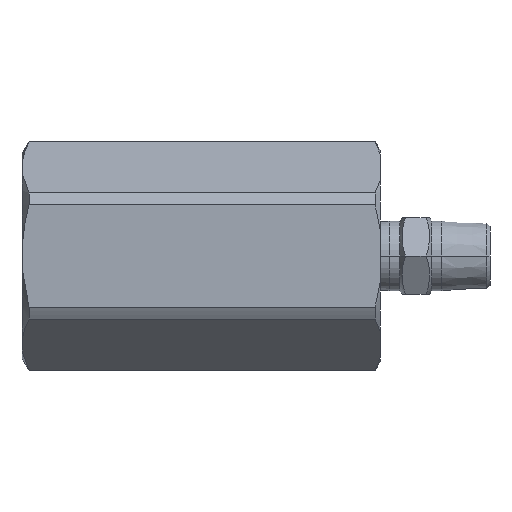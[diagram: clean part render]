
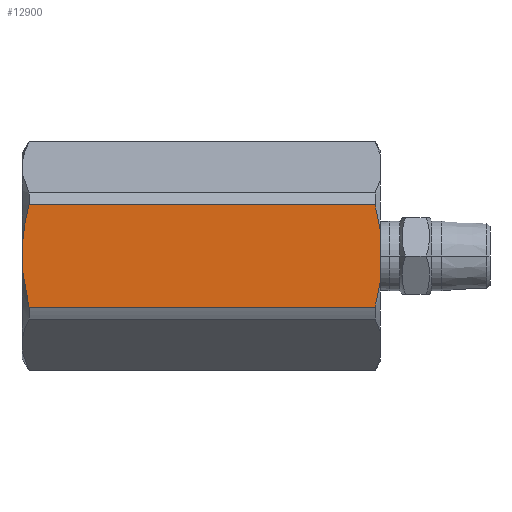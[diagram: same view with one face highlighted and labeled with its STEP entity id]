
A CAD part, front view. The second image highlights one B-rep face of the part: STEP entity #12900.
In plain terms, the highlighted planar face has unit normal (0, -1, 0).
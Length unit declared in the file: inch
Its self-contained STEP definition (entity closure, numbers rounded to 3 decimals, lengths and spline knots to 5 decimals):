
#2807=DIRECTION('',(-1.,0.,0.));
#2808=VECTOR('',#2807,3.38296);
#2809=CARTESIAN_POINT('',(3.45148,-1.,-0.4988));
#2810=LINE('',#2809,#2808);
#2811=CARTESIAN_POINT('',(0.06852,-1.,-0.4988));
#2812=CARTESIAN_POINT('',(0.06427,-1.,-0.48232));
#2813=CARTESIAN_POINT('',(0.05617,-1.,-0.44956));
#2814=CARTESIAN_POINT('',(0.04522,-1.,-0.40113));
#2815=CARTESIAN_POINT('',(0.03546,-1.,-0.35324));
#2816=CARTESIAN_POINT('',(0.02687,-1.,-0.30573));
#2817=CARTESIAN_POINT('',(0.01947,-1.,-0.2585));
#2818=CARTESIAN_POINT('',(0.01325,-1.,-0.21142));
#2819=CARTESIAN_POINT('',(0.00823,-1.,-0.1644));
#2820=CARTESIAN_POINT('',(0.00444,-1.,-0.11744));
#2821=CARTESIAN_POINT('',(0.0019,-1.,-0.07046));
#2822=CARTESIAN_POINT('',(0.00063,-1.,-0.02348));
#2823=CARTESIAN_POINT('',(0.00063,-1.,0.02348));
#2824=CARTESIAN_POINT('',(0.0019,-1.,0.07046));
#2825=CARTESIAN_POINT('',(0.00444,-1.,0.11744));
#2826=CARTESIAN_POINT('',(0.00823,-1.,0.1644));
#2827=CARTESIAN_POINT('',(0.01325,-1.,0.21142));
#2828=CARTESIAN_POINT('',(0.01947,-1.,0.25851));
#2829=CARTESIAN_POINT('',(0.02687,-1.,0.30573));
#2830=CARTESIAN_POINT('',(0.03546,-1.,0.35324));
#2831=CARTESIAN_POINT('',(0.04522,-1.,0.40113));
#2832=CARTESIAN_POINT('',(0.05617,-1.,0.44956));
#2833=CARTESIAN_POINT('',(0.06427,-1.,0.48232));
#2834=CARTESIAN_POINT('',(0.06852,-1.,0.4988));
#2836=DIRECTION('',(-1.,0.,0.));
#2837=VECTOR('',#2836,3.38296);
#2838=CARTESIAN_POINT('',(3.45148,-1.,0.4988));
#2839=LINE('',#2838,#2837);
#2840=CARTESIAN_POINT('',(3.5,-1.,0.26083));
#2841=CARTESIAN_POINT('',(3.49771,-1.,0.27654));
#2842=CARTESIAN_POINT('',(3.49274,-1.,0.308));
#2843=CARTESIAN_POINT('',(3.48415,-1.,0.35522));
#2844=CARTESIAN_POINT('',(3.47444,-1.,0.40267));
#2845=CARTESIAN_POINT('',(3.46362,-1.,0.45044));
#2846=CARTESIAN_POINT('',(3.45565,-1.,0.48263));
#2847=CARTESIAN_POINT('',(3.45148,-1.,0.4988));
#2849=CARTESIAN_POINT('',(3.45148,-1.,-0.4988));
#2850=CARTESIAN_POINT('',(3.45566,-1.,-0.48258));
#2851=CARTESIAN_POINT('',(3.46365,-1.,-0.45031));
#2852=CARTESIAN_POINT('',(3.47448,-1.,-0.40248));
#2853=CARTESIAN_POINT('',(3.48419,-1.,-0.35504));
#2854=CARTESIAN_POINT('',(3.49276,-1.,-0.30788));
#2855=CARTESIAN_POINT('',(3.49772,-1.,-0.2765));
#2856=CARTESIAN_POINT('',(3.5,-1.,-0.26083));
#3007=DIRECTION('',(0.,0.,1.));
#3008=VECTOR('',#3007,0.52166);
#3009=CARTESIAN_POINT('',(3.5,-1.,-0.26083));
#3010=LINE('',#3009,#3008);
#8681=CARTESIAN_POINT('',(3.5,-1.,-0.26083));
#8683=VERTEX_POINT('',#8681);
#8684=CARTESIAN_POINT('',(3.5,-1.,0.26083));
#8686=VERTEX_POINT('',#8684);
#8731=CARTESIAN_POINT('',(3.45148,-1.,-0.4988));
#8732=CARTESIAN_POINT('',(0.06852,-1.,-0.4988));
#8733=VERTEX_POINT('',#8731);
#8734=VERTEX_POINT('',#8732);
#8735=CARTESIAN_POINT('',(3.45148,-1.,0.4988));
#8736=CARTESIAN_POINT('',(0.06852,-1.,0.4988));
#8737=VERTEX_POINT('',#8735);
#8738=VERTEX_POINT('',#8736);
#12883=CARTESIAN_POINT('',(0.,-1.,-0.57735));
#12884=DIRECTION('',(0.,-1.,0.));
#12885=DIRECTION('',(0.,0.,1.));
#12886=AXIS2_PLACEMENT_3D('',#12883,#12884,#12885);
#12887=PLANE('',#12886);
#12888=ORIENTED_EDGE('',*,*,#12876,.T.);
#12889=ORIENTED_EDGE('',*,*,#12811,.T.);
#12891=ORIENTED_EDGE('',*,*,#12890,.F.);
#12893=ORIENTED_EDGE('',*,*,#12892,.F.);
#12895=ORIENTED_EDGE('',*,*,#12894,.F.);
#12897=ORIENTED_EDGE('',*,*,#12896,.F.);
#12898=EDGE_LOOP('',(#12888,#12889,#12891,#12893,#12895,#12897));
#12899=FACE_OUTER_BOUND('',#12898,.F.);
#12900=ADVANCED_FACE('',(#12899),#12887,.T.);
#2835=B_SPLINE_CURVE_WITH_KNOTS('',3,(#2811,#2812,#2813,#2814,#2815,#2816,#2817,
#2818,#2819,#2820,#2821,#2822,#2823,#2824,#2825,#2826,#2827,#2828,#2829,#2830,
#2831,#2832,#2833,#2834),.UNSPECIFIED.,.F.,.F.,(4,1,1,1,1,1,1,1,1,1,1,1,1,1,1,1,
1,1,1,1,1,4),(0.,0.04762,0.09524,0.14286,
0.19048,0.2381,0.28571,0.33333,
0.38095,0.42857,0.47619,0.52381,
0.57143,0.61905,0.66667,0.71429,
0.7619,0.80952,0.85714,0.90476,
0.95238,1.),.UNSPECIFIED.);
#2848=B_SPLINE_CURVE_WITH_KNOTS('',3,(#2840,#2841,#2842,#2843,#2844,#2845,#2846,
#2847),.UNSPECIFIED.,.F.,.F.,(4,1,1,1,1,4),(0.,0.2,0.4,0.6,0.8,1.),
.UNSPECIFIED.);
#2857=B_SPLINE_CURVE_WITH_KNOTS('',3,(#2849,#2850,#2851,#2852,#2853,#2854,#2855,
#2856),.UNSPECIFIED.,.F.,.F.,(4,1,1,1,1,4),(0.,0.2,0.4,0.6,0.8,1.),
.UNSPECIFIED.);
#12811=EDGE_CURVE('',#8734,#8738,#2835,.T.);
#12876=EDGE_CURVE('',#8733,#8734,#2810,.T.);
#12890=EDGE_CURVE('',#8737,#8738,#2839,.T.);
#12892=EDGE_CURVE('',#8686,#8737,#2848,.T.);
#12894=EDGE_CURVE('',#8683,#8686,#3010,.T.);
#12896=EDGE_CURVE('',#8733,#8683,#2857,.T.);
